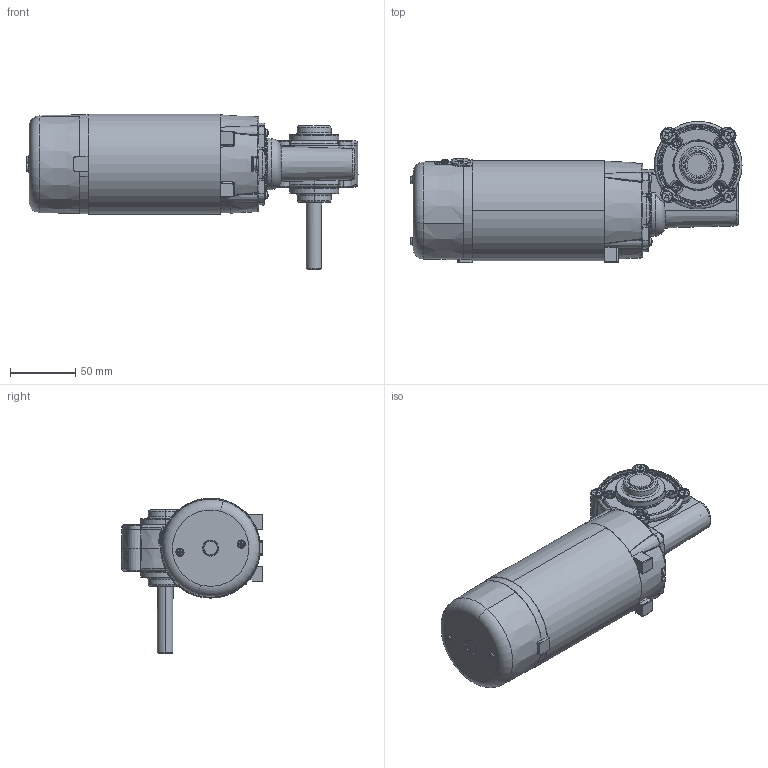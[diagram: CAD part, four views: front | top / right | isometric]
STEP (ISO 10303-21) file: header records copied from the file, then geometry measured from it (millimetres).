
FILE_DESCRIPTION (( 'STEP AP214' ), '1' );
FILE_NAME ('PM50-M.STEP', '2021-10-07T08:52:13', ( '' ), ( '' ), 'SwSTEP 2.0', 'SolidWorks 2020', '' );
FILE_SCHEMA (( 'AUTOMOTIVE_DESIGN' ));
Length unit declared in the file: millimetre
Products named in the file (1): PM50-M
Bounding box: 255.35 x 108.65 x 119.9 mm (x, y, z)
Surface area: 136446.2 mm2 (no closed solid volume)
Topology: 0 solids, 59 shells, 2208 faces, 5736 edges, 3535 vertices
Faces by surface type: cone 542, bspline 498, plane 380, cylinder 354, torus 330, sphere 104
Entity records: 131851 total; most frequent: CARTESIAN_POINT 58102, ORIENTED_EDGE 10645, DIRECTION 9411, EDGE_CURVE 5539, AXIS2_PLACEMENT_3D 4059, VERTEX_POINT 3481, CIRCLE 2348, EDGE_LOOP 2345
